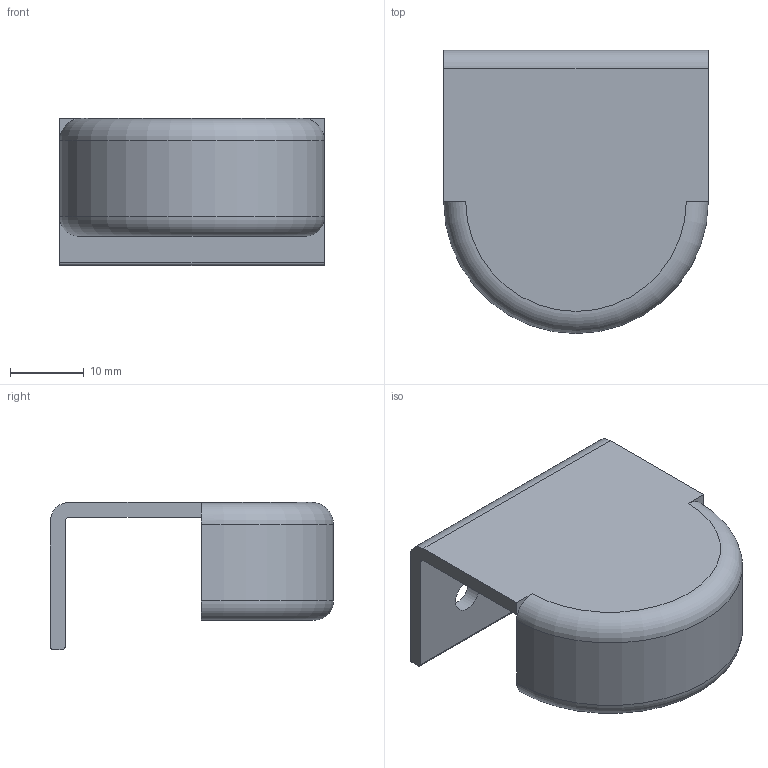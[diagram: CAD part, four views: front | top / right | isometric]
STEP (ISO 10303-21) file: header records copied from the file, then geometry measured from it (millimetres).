
FILE_DESCRIPTION(('Open CASCADE Model'),'2;1');
FILE_NAME('FL-LIP-D-36','2026-10-19T21:24:02',('Author'),('Open CASCADE' ),'Open CASCADE STEP processor 8.0','build123d','Unknown');
FILE_SCHEMA(('AUTOMOTIVE_DESIGN { 1 0 10303 214 1 1 1 1 }'));
Length unit declared in the file: millimetre
Products named in the file (2): FL-LIP-D-36; brass_FL-LIPD36-18__e
Assembly tree (1 placements, depth 2):
  FL-LIP-D-36
    brass_FL-LIPD36-18__e
Bounding box: 36 x 38.5 x 20 mm (x, y, z)
Volume: 5231.5 mm3; surface area: 5650.3 mm2
Topology: 1 solids, 1 shells, 28 faces, 76 edges, 50 vertices
Faces by surface type: plane 13, cylinder 9, torus 6
Full cylindrical faces by diameter (mm): 4.5 x2
Entity records: 1974 total; most frequent: CARTESIAN_POINT 404, DIRECTION 310, LINE 158, VECTOR 158, ORIENTED_EDGE 152, PCURVE 152, DEFINITIONAL_REPRESENTATION 152, EDGE_CURVE 76
